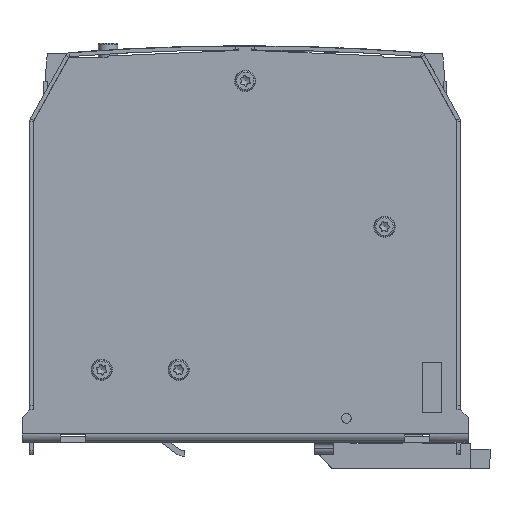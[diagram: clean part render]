
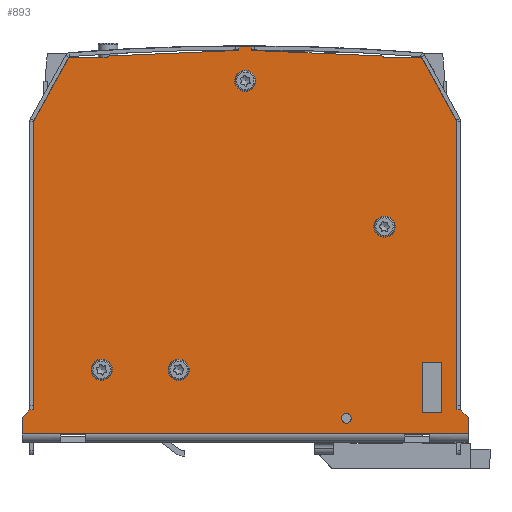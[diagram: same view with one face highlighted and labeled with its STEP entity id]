
A CAD part, left-side view. The second image highlights one B-rep face of the part: STEP entity #893.
In plain terms, the highlighted planar face has unit normal (-1, 0, 0).
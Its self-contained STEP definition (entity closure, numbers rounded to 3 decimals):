
#122=CARTESIAN_POINT('',(-27.5,-46.0,7.7));
#123=VERTEX_POINT('',#122);
#130=CARTESIAN_POINT('',(-27.5,-51.0,7.7));
#131=VERTEX_POINT('',#130);
#132=CARTESIAN_POINT('',(-27.5,-51.0,7.7));
#133=DIRECTION('',(0.0,1.0,0.0));
#134=VECTOR('',#133,5.0);
#135=LINE('',#132,#134);
#136=EDGE_CURVE('',#131,#123,#135,.T.);
#161=CARTESIAN_POINT('',(-27.5,-51.,20.7));
#162=VERTEX_POINT('',#161);
#163=CARTESIAN_POINT('',(-27.5,-51.,20.7));
#164=DIRECTION('',(0.0,0.0,-1.0));
#165=VECTOR('',#164,13.0);
#166=LINE('',#163,#165);
#167=EDGE_CURVE('',#162,#131,#166,.T.);
#192=CARTESIAN_POINT('',(-27.5,-46.,20.7));
#193=VERTEX_POINT('',#192);
#194=CARTESIAN_POINT('',(-27.5,-46.,20.7));
#195=DIRECTION('',(0.0,-1.0,0.0));
#196=VECTOR('',#195,5.);
#197=LINE('',#194,#196);
#198=EDGE_CURVE('',#193,#162,#197,.T.);
#221=CARTESIAN_POINT('',(-27.5,-46.,7.7));
#222=DIRECTION('',(0.0,0.0,1.0));
#223=VECTOR('',#222,13.);
#224=LINE('',#221,#223);
#225=EDGE_CURVE('',#123,#193,#224,.T.);
#238=CARTESIAN_POINT('',(-27.5,35.9,100.43));
#239=VERTEX_POINT('',#238);
#254=CARTESIAN_POINT('',(-27.5,35.9,100.));
#255=VERTEX_POINT('',#254);
#262=CARTESIAN_POINT('',(-27.5,35.9,100.43));
#263=DIRECTION('',(0.0,0.0,-1.0));
#264=VECTOR('',#263,0.43);
#265=LINE('',#262,#264);
#266=EDGE_CURVE('',#239,#255,#265,.T.);
#276=CARTESIAN_POINT('',(-27.5,45.9,100.));
#277=VERTEX_POINT('',#276);
#278=CARTESIAN_POINT('',(-27.5,35.9,100.));
#279=DIRECTION('',(0.0,1.0,0.0));
#280=VECTOR('',#279,10.0);
#281=LINE('',#278,#280);
#282=EDGE_CURVE('',#255,#277,#281,.T.);
#449=CARTESIAN_POINT('',(-27.5,-35.9,100.43));
#450=VERTEX_POINT('',#449);
#459=CARTESIAN_POINT('',(-27.5,-35.9,100.));
#460=VERTEX_POINT('',#459);
#461=CARTESIAN_POINT('',(-27.5,-35.9,100.));
#462=DIRECTION('',(0.0,0.0,1.0));
#463=VECTOR('',#462,0.43);
#464=LINE('',#461,#463);
#465=EDGE_CURVE('',#460,#450,#464,.T.);
#489=CARTESIAN_POINT('',(-27.5,-45.9,100.0));
#490=VERTEX_POINT('',#489);
#491=CARTESIAN_POINT('',(-27.5,-45.9,100.));
#492=DIRECTION('',(0.0,1.0,0.0));
#493=VECTOR('',#492,10.);
#494=LINE('',#491,#493);
#495=EDGE_CURVE('',#490,#460,#494,.T.);
#521=CARTESIAN_POINT('',(-27.5,1.7,101.9));
#522=VERTEX_POINT('',#521);
#523=CARTESIAN_POINT('',(-27.5,1.7,101.9));
#524=DIRECTION('',(0.,0.999,-0.043));
#525=VECTOR('',#524,34.232);
#526=LINE('',#523,#525);
#527=EDGE_CURVE('',#522,#239,#526,.T.);
#704=CARTESIAN_POINT('',(-27.5,0.,-25.215));
#705=DIRECTION('',(1.0,0.0,0.0));
#706=DIRECTION('',(0.0,1.0,0.0));
#707=AXIS2_PLACEMENT_3D('',#704,#705,#706);
#708=PLANE('',#707);
#709=ORIENTED_EDGE('',*,*,#266,.T.);
#710=ORIENTED_EDGE('',*,*,#282,.T.);
#711=CARTESIAN_POINT('',(-27.5,55.,83.5));
#712=VERTEX_POINT('',#711);
#713=CARTESIAN_POINT('',(-27.5,45.9,100.));
#714=DIRECTION('',(0.,0.483,-0.876));
#715=VECTOR('',#714,18.843);
#716=LINE('',#713,#715);
#717=EDGE_CURVE('',#277,#712,#716,.T.);
#718=ORIENTED_EDGE('',*,*,#717,.T.);
#719=CARTESIAN_POINT('',(-27.5,55.,8.5));
#720=VERTEX_POINT('',#719);
#721=CARTESIAN_POINT('',(-27.5,55.,83.5));
#722=DIRECTION('',(0.0,0.0,-1.0));
#723=VECTOR('',#722,75.);
#724=LINE('',#721,#723);
#725=EDGE_CURVE('',#712,#720,#724,.T.);
#726=ORIENTED_EDGE('',*,*,#725,.T.);
#727=CARTESIAN_POINT('',(-27.5,56.,8.5));
#728=VERTEX_POINT('',#727);
#729=CARTESIAN_POINT('',(-27.5,55.,8.5));
#730=DIRECTION('',(0.0,1.0,0.0));
#731=VECTOR('',#730,1.);
#732=LINE('',#729,#731);
#733=EDGE_CURVE('',#720,#728,#732,.T.);
#734=ORIENTED_EDGE('',*,*,#733,.T.);
#735=CARTESIAN_POINT('',(-27.5,58.,6.5));
#736=VERTEX_POINT('',#735);
#737=CARTESIAN_POINT('',(-27.5,56.,8.5));
#738=DIRECTION('',(0.,0.707,-0.707));
#739=VECTOR('',#738,2.828);
#740=LINE('',#737,#739);
#741=EDGE_CURVE('',#728,#736,#740,.T.);
#742=ORIENTED_EDGE('',*,*,#741,.T.);
#743=CARTESIAN_POINT('',(-27.5,58.0,2.25));
#744=VERTEX_POINT('',#743);
#745=CARTESIAN_POINT('',(-27.5,58.0,2.25));
#746=DIRECTION('',(0.0,0.0,1.0));
#747=VECTOR('',#746,4.25);
#748=LINE('',#745,#747);
#749=EDGE_CURVE('',#744,#736,#748,.T.);
#750=ORIENTED_EDGE('',*,*,#749,.F.);
#751=CARTESIAN_POINT('',(-27.5,-58.0,2.25));
#752=VERTEX_POINT('',#751);
#753=CARTESIAN_POINT('',(-27.5,58.0,2.25));
#754=DIRECTION('',(0.0,-1.0,0.0));
#755=VECTOR('',#754,116.0);
#756=LINE('',#753,#755);
#757=EDGE_CURVE('',#744,#752,#756,.T.);
#758=ORIENTED_EDGE('',*,*,#757,.T.);
#759=CARTESIAN_POINT('',(-27.5,-58.0,6.5));
#760=VERTEX_POINT('',#759);
#761=CARTESIAN_POINT('',(-27.5,-58.,6.5));
#762=DIRECTION('',(0.0,0.0,-1.0));
#763=VECTOR('',#762,4.25);
#764=LINE('',#761,#763);
#765=EDGE_CURVE('',#760,#752,#764,.T.);
#766=ORIENTED_EDGE('',*,*,#765,.F.);
#767=CARTESIAN_POINT('',(-27.5,-56.,8.5));
#768=VERTEX_POINT('',#767);
#769=CARTESIAN_POINT('',(-27.5,-58.,6.5));
#770=DIRECTION('',(0.,0.707,0.707));
#771=VECTOR('',#770,2.828);
#772=LINE('',#769,#771);
#773=EDGE_CURVE('',#760,#768,#772,.T.);
#774=ORIENTED_EDGE('',*,*,#773,.T.);
#775=CARTESIAN_POINT('',(-27.5,-55.,8.5));
#776=VERTEX_POINT('',#775);
#777=CARTESIAN_POINT('',(-27.5,-56.,8.5));
#778=DIRECTION('',(0.0,1.0,0.0));
#779=VECTOR('',#778,1.0);
#780=LINE('',#777,#779);
#781=EDGE_CURVE('',#768,#776,#780,.T.);
#782=ORIENTED_EDGE('',*,*,#781,.T.);
#783=CARTESIAN_POINT('',(-27.5,-55.,83.5));
#784=VERTEX_POINT('',#783);
#785=CARTESIAN_POINT('',(-27.5,-55.0,8.5));
#786=DIRECTION('',(0.0,0.0,1.0));
#787=VECTOR('',#786,75.);
#788=LINE('',#785,#787);
#789=EDGE_CURVE('',#776,#784,#788,.T.);
#790=ORIENTED_EDGE('',*,*,#789,.T.);
#791=CARTESIAN_POINT('',(-27.5,-55.,83.5));
#792=DIRECTION('',(0.,0.483,0.876));
#793=VECTOR('',#792,18.843);
#794=LINE('',#791,#793);
#795=EDGE_CURVE('',#784,#490,#794,.T.);
#796=ORIENTED_EDGE('',*,*,#795,.T.);
#797=ORIENTED_EDGE('',*,*,#495,.T.);
#798=ORIENTED_EDGE('',*,*,#465,.T.);
#799=CARTESIAN_POINT('',(-27.5,-1.7,101.9));
#800=VERTEX_POINT('',#799);
#801=CARTESIAN_POINT('',(-27.5,-35.9,100.43));
#802=DIRECTION('',(0.,0.999,0.043));
#803=VECTOR('',#802,34.232);
#804=LINE('',#801,#803);
#805=EDGE_CURVE('',#450,#800,#804,.T.);
#806=ORIENTED_EDGE('',*,*,#805,.T.);
#807=CARTESIAN_POINT('',(-27.5,-1.7,102.8));
#808=VERTEX_POINT('',#807);
#809=CARTESIAN_POINT('',(-27.5,-1.7,101.9));
#810=DIRECTION('',(0.0,0.0,1.0));
#811=VECTOR('',#810,0.9);
#812=LINE('',#809,#811);
#813=EDGE_CURVE('',#800,#808,#812,.T.);
#814=ORIENTED_EDGE('',*,*,#813,.T.);
#815=CARTESIAN_POINT('',(-27.5,1.7,102.8));
#816=VERTEX_POINT('',#815);
#817=CARTESIAN_POINT('',(-27.5,1.7,102.8));
#818=DIRECTION('',(0.0,-1.0,0.0));
#819=VECTOR('',#818,3.4);
#820=LINE('',#817,#819);
#821=EDGE_CURVE('',#816,#808,#820,.T.);
#822=ORIENTED_EDGE('',*,*,#821,.F.);
#823=CARTESIAN_POINT('',(-27.5,1.7,102.8));
#824=DIRECTION('',(0.0,0.0,-1.0));
#825=VECTOR('',#824,0.9);
#826=LINE('',#823,#825);
#827=EDGE_CURVE('',#816,#522,#826,.T.);
#828=ORIENTED_EDGE('',*,*,#827,.T.);
#829=ORIENTED_EDGE('',*,*,#527,.T.);
#830=EDGE_LOOP('',(#709,#710,#718,#726,#734,#742,#750,#758,#766,#774,#782,#790,#796,#797,#798,#806,#814,#822,#828,#829));
#831=FACE_OUTER_BOUND('',#830,.T.);
#832=ORIENTED_EDGE('',*,*,#136,.T.);
#833=ORIENTED_EDGE('',*,*,#225,.T.);
#834=ORIENTED_EDGE('',*,*,#198,.T.);
#835=ORIENTED_EDGE('',*,*,#167,.T.);
#836=EDGE_LOOP('',(#832,#833,#834,#835));
#837=FACE_BOUND('',#836,.T.);
#838=CARTESIAN_POINT('',(-27.5,37.3,20.45));
#839=VERTEX_POINT('',#838);
#840=CARTESIAN_POINT('',(-27.5,37.3,18.9));
#841=DIRECTION('',(1.0,0.0,0.0));
#842=DIRECTION('',(0.0,0.0,1.0));
#843=AXIS2_PLACEMENT_3D('',#840,#841,#842);
#844=CIRCLE('',#843,1.55);
#845=EDGE_CURVE('',#839,#839,#844,.T.);
#846=ORIENTED_EDGE('',*,*,#845,.T.);
#847=EDGE_LOOP('',(#846));
#848=FACE_BOUND('',#847,.T.);
#849=CARTESIAN_POINT('',(-27.5,17.3,20.45));
#850=VERTEX_POINT('',#849);
#851=CARTESIAN_POINT('',(-27.5,17.3,18.9));
#852=DIRECTION('',(1.0,0.0,0.0));
#853=DIRECTION('',(0.0,0.0,1.0));
#854=AXIS2_PLACEMENT_3D('',#851,#852,#853);
#855=CIRCLE('',#854,1.55);
#856=EDGE_CURVE('',#850,#850,#855,.T.);
#857=ORIENTED_EDGE('',*,*,#856,.T.);
#858=EDGE_LOOP('',(#857));
#859=FACE_BOUND('',#858,.T.);
#860=CARTESIAN_POINT('',(-27.5,0.,95.65));
#861=VERTEX_POINT('',#860);
#862=CARTESIAN_POINT('',(-27.5,0.,94.));
#863=DIRECTION('',(1.0,0.0,0.0));
#864=DIRECTION('',(0.0,0.0,1.0));
#865=AXIS2_PLACEMENT_3D('',#862,#863,#864);
#866=CIRCLE('',#865,1.65);
#867=EDGE_CURVE('',#861,#861,#866,.T.);
#868=ORIENTED_EDGE('',*,*,#867,.T.);
#869=EDGE_LOOP('',(#868));
#870=FACE_BOUND('',#869,.T.);
#871=CARTESIAN_POINT('',(-27.5,-26.3,7.55));
#872=VERTEX_POINT('',#871);
#873=CARTESIAN_POINT('',(-27.5,-26.3,6.3));
#874=DIRECTION('',(1.0,0.0,0.0));
#875=DIRECTION('',(0.0,0.0,1.0));
#876=AXIS2_PLACEMENT_3D('',#873,#874,#875);
#877=CIRCLE('',#876,1.25);
#878=EDGE_CURVE('',#872,#872,#877,.T.);
#879=ORIENTED_EDGE('',*,*,#878,.T.);
#880=EDGE_LOOP('',(#879));
#881=FACE_BOUND('',#880,.T.);
#882=CARTESIAN_POINT('',(-27.5,-36.2,57.35));
#883=VERTEX_POINT('',#882);
#884=CARTESIAN_POINT('',(-27.5,-36.2,56.1));
#885=DIRECTION('',(1.0,0.0,0.0));
#886=DIRECTION('',(0.0,0.0,1.0));
#887=AXIS2_PLACEMENT_3D('',#884,#885,#886);
#888=CIRCLE('',#887,1.25);
#889=EDGE_CURVE('',#883,#883,#888,.T.);
#890=ORIENTED_EDGE('',*,*,#889,.T.);
#891=EDGE_LOOP('',(#890));
#892=FACE_BOUND('',#891,.T.);
#893=ADVANCED_FACE('',(#831,#837,#848,#859,#870,#881,#892),#708,.F.);
